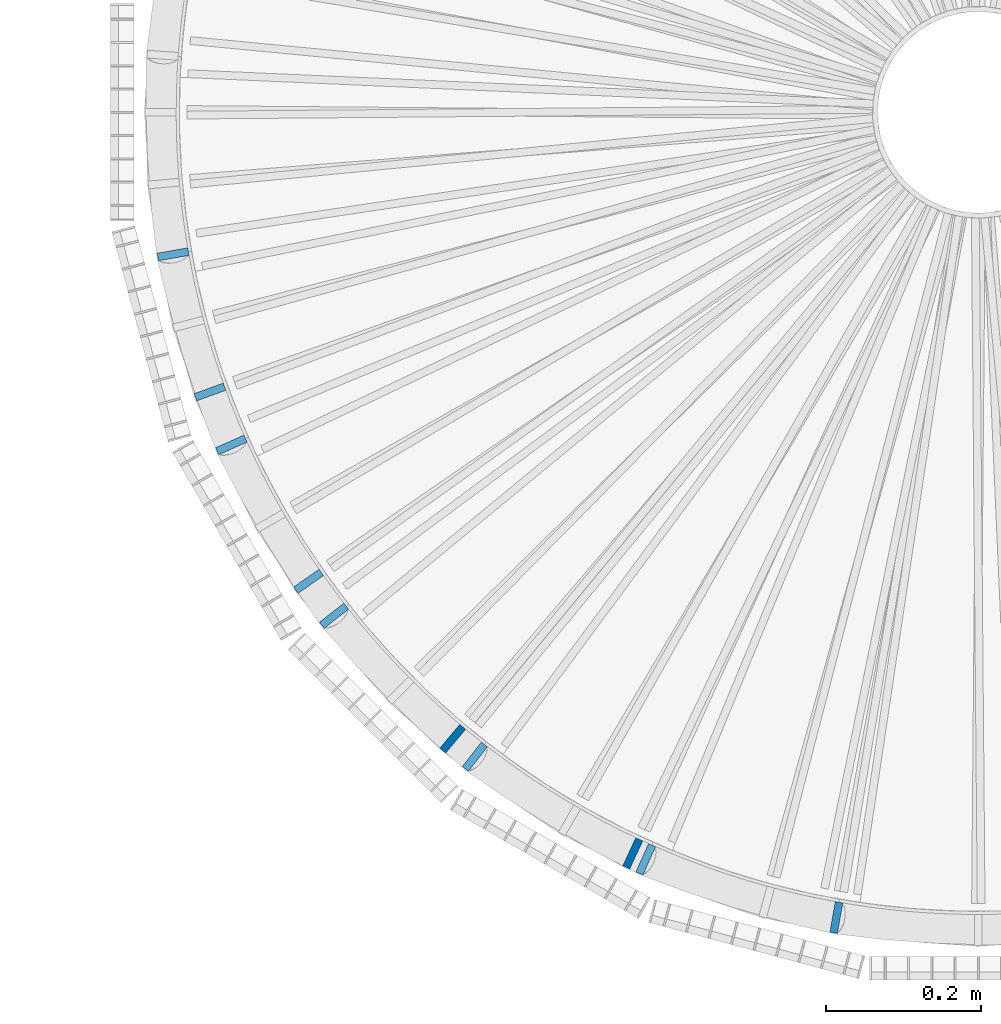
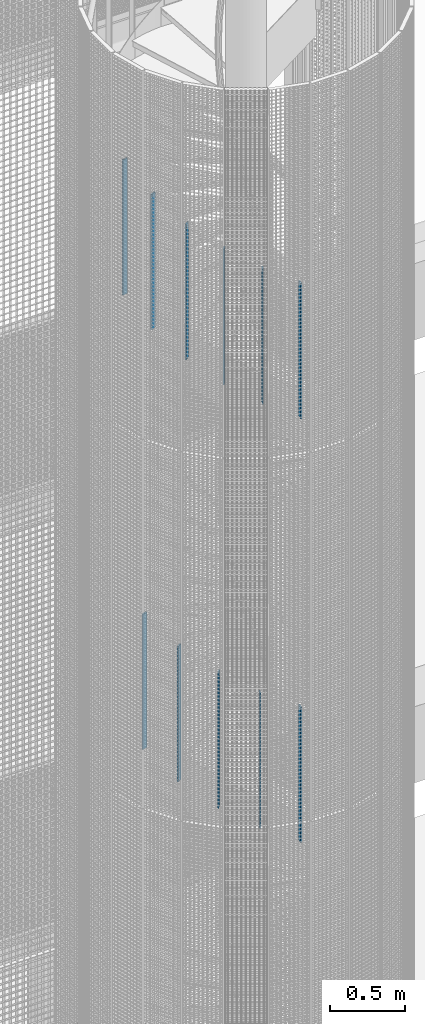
# One storey, part 38 of 1183: 11 columns, 11 elements without a shape of their own.
"""IFC2X3 building model written with IfcOpenShell, lengths in millimetres."""

from ifc_helpers import new_model, si_unit, frame, origin_with_axes, origin_2d_with_axis, place, context, subcontext, project, spatial, rectangle, extrude, material, type_object, element, aggregate, save


model = new_model("IFC2X3")

# Units and contexts
model_context = context("Model", 3, precision=1e-05, world=origin_with_axes())
body_context = subcontext(model_context, "Body", "Model", "MODEL_VIEW")
ifc_project = project(units=[si_unit("LENGTHUNIT", "METRE", prefix="MILLI"), si_unit("AREAUNIT", "SQUARE_METRE"), si_unit("VOLUMEUNIT", "CUBIC_METRE"), si_unit("MASSUNIT", "GRAM", prefix="KILO"), si_unit("TIMEUNIT", "SECOND"), si_unit("PLANEANGLEUNIT", "RADIAN"), si_unit("SOLIDANGLEUNIT", "STERADIAN"), si_unit("THERMODYNAMICTEMPERATUREUNIT", "DEGREE_CELSIUS"), si_unit("LUMINOUSINTENSITYUNIT", "LUMEN")], contexts=[model_context])

# Site, building, storey
site_placement = place(None, origin_with_axes())
site = spatial("IfcSite", under=ifc_project, at=site_placement, Name="Undefined", CompositionType="ELEMENT")
building_placement = place(site_placement, origin_with_axes())
building = spatial("IfcBuilding", under=site, at=building_placement, Name="Undefined", CompositionType="ELEMENT")
storey_placement = place(building_placement, origin_with_axes())
storey = spatial("IfcBuildingStorey", under=building, at=storey_placement, Name="Undefined", CompositionType="ELEMENT", Elevation=0.0)

# Assembly, column
assembly_1_placement = place(storey_placement, origin_with_axes())
assembly_1 = element("IfcElementAssembly", 1, at=assembly_1_placement, inside=storey, Name="MONTANT", AssemblyPlace="NOTDEFINED", PredefinedType="NOTDEFINED")
ifc_material = material(Name="STEEL/S235JR")
column_type = type_object("IfcColumnType", Name="PL10*40", PredefinedType="NOTDEFINED")
column_1_placement = place(assembly_1_placement, frame((20769.4366656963, -648.907194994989, 15724.76), z_axis=(0.0, 0.0, 1.0), x_axis=(0.788010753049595, 0.615661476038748, 0.0)))
column_1 = element("IfcColumn", 2, at=column_1_placement, type_object=column_type, material=ifc_material, Name="MONTANT", context=body_context, shape_type="SweptSolid", body=[
    extrude(rectangle(XDim=10.0, YDim=40.0, at=origin_2d_with_axis()), frame((0.0, 0.0, 1100.0), z_axis=(0.0, 0.0, -1.0), x_axis=(0.0, 1.0, 0.0)), (0.0, 0.0, 1.0), 1100.0),
])
aggregate(assembly_1, [column_1])

assembly_2_placement = place(storey_placement, origin_with_axes())
assembly_2 = element("IfcElementAssembly", 3, at=assembly_2_placement, inside=storey, Name="MONTANT", AssemblyPlace="NOTDEFINED", PredefinedType="NOTDEFINED")
column_2_placement = place(assembly_2_placement, frame((20951.0928050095, -830.563334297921, 15568.24), z_axis=(0.0, 0.0, 1.0), x_axis=(0.61566147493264, 0.788010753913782, 0.0)))
column_2 = element("IfcColumn", 4, at=column_2_placement, type_object=column_type, material=ifc_material, Name="MONTANT", context=body_context, shape_type="SweptSolid", body=[
    extrude(rectangle(XDim=10.0, YDim=40.0, at=origin_2d_with_axis()), frame((0.0, 0.0, 1100.0), z_axis=(0.0, 0.0, -1.0), x_axis=(0.0, 1.0, 0.0)), (0.0, 0.0, 1.0), 1100.0),
])
aggregate(assembly_2, [column_2])

assembly_3_placement = place(storey_placement, origin_with_axes())
assembly_3 = element("IfcElementAssembly", 5, at=assembly_3_placement, inside=storey, Name="MONTANT", AssemblyPlace="NOTDEFINED", PredefinedType="NOTDEFINED")
column_3_placement = place(assembly_3_placement, frame((20562.0126283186, -183.025179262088, 16037.8), z_axis=(0.0, 0.0, 1.0), x_axis=(0.984807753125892, 0.173648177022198, 0.0)))
column_3 = element("IfcColumn", 6, at=column_3_placement, type_object=column_type, material=ifc_material, Name="MONTANT", context=body_context, shape_type="SweptSolid", body=[
    extrude(rectangle(XDim=10.0, YDim=40.0, at=origin_2d_with_axis()), frame((0.0, 0.0, 1100.0), z_axis=(0.0, 0.0, -1.0), x_axis=(0.0, 1.0, 0.0)), (0.0, 0.0, 1.0), 1100.0),
])
aggregate(assembly_3, [column_3])

assembly_4_placement = place(storey_placement, origin_with_axes())
assembly_4 = element("IfcElementAssembly", 7, at=assembly_4_placement, inside=storey, Name="MONTANT", AssemblyPlace="NOTDEFINED", PredefinedType="NOTDEFINED")
column_4_placement = place(assembly_4_placement, frame((21416.9748207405, -1037.98737166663, 15255.2), z_axis=(0.0, 0.0, 1.0), x_axis=(0.173648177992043, 0.984807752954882, 0.0)))
column_4 = element("IfcColumn", 8, at=column_4_placement, type_object=column_type, material=ifc_material, Name="MONTANT", context=body_context, shape_type="SweptSolid", body=[
    extrude(rectangle(XDim=10.0, YDim=40.0, at=origin_2d_with_axis()), frame((0.0, 0.0, 1100.0), z_axis=(0.0, 0.0, -1.0), x_axis=(0.0, 1.0, 0.0)), (0.0, 0.0, 1.0), 1100.0),
])
aggregate(assembly_4, [column_4])

assembly_5_placement = place(storey_placement, origin_with_axes())
assembly_5 = element("IfcElementAssembly", 9, at=assembly_5_placement, inside=storey, Name="MONTANT", AssemblyPlace="NOTDEFINED", PredefinedType="NOTDEFINED")
column_5_placement = place(assembly_5_placement, frame((21171.2995782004, -962.876912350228, 15411.72), z_axis=(0.0, 0.0, 1.0), x_axis=(0.40673664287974, 0.913545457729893, 0.0)))
column_5 = element("IfcColumn", 10, at=column_5_placement, type_object=column_type, material=ifc_material, Name="MONTANT", context=body_context, shape_type="SweptSolid", body=[
    extrude(rectangle(XDim=10.0, YDim=40.0, at=origin_2d_with_axis()), frame((0.0, 0.0, 1100.0), z_axis=(0.0, 0.0, -1.0), x_axis=(0.0, 1.0, 0.0)), (0.0, 0.0, 1.0), 1100.0),
])
aggregate(assembly_5, [column_5])

assembly_6_placement = place(storey_placement, origin_with_axes())
assembly_6 = element("IfcElementAssembly", 11, at=assembly_6_placement, inside=storey, Name="MONTANT", AssemblyPlace="NOTDEFINED", PredefinedType="NOTDEFINED")
column_6_placement = place(assembly_6_placement, frame((20637.1230876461, -428.700421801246, 15881.28), z_axis=(0.0, 0.0, 1.0), x_axis=(0.913545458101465, 0.406736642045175, 0.0)))
column_6 = element("IfcColumn", 12, at=column_6_placement, type_object=column_type, material=ifc_material, Name="MONTANT", context=body_context, shape_type="SweptSolid", body=[
    extrude(rectangle(XDim=10.0, YDim=40.0, at=origin_2d_with_axis()), frame((0.0, 0.0, 1100.0), z_axis=(0.0, 0.0, -1.0), x_axis=(0.0, 1.0, 0.0)), (0.0, 0.0, 1.0), 1100.0),
])
aggregate(assembly_6, [column_6])

assembly_7_placement = place(storey_placement, origin_with_axes())
assembly_7 = element("IfcElementAssembly", 13, at=assembly_7_placement, inside=storey, Name="MONTANT", AssemblyPlace="NOTDEFINED", PredefinedType="NOTDEFINED")
column_7_placement = place(assembly_7_placement, frame((20922.5018593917, -807.410843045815, 12124.76), z_axis=(0.0, 0.0, 1.0), x_axis=(0.642787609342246, 0.766044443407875, 0.0)))
column_7 = element("IfcColumn", 14, at=column_7_placement, type_object=column_type, material=ifc_material, Name="MONTANT", context=body_context, shape_type="SweptSolid", body=[
    extrude(rectangle(XDim=10.0, YDim=40.0, at=origin_2d_with_axis()), frame((0.0, 0.0, 1100.0), z_axis=(0.0, 0.0, -1.0), x_axis=(0.0, 1.0, 0.0)), (0.0, 0.0, 1.0), 1100.0),
])
aggregate(assembly_7, [column_7])

assembly_8_placement = place(storey_placement, origin_with_axes())
assembly_8 = element("IfcElementAssembly", 15, at=assembly_8_placement, inside=storey, Name="MONTANT", AssemblyPlace="NOTDEFINED", PredefinedType="NOTDEFINED")
column_8_placement = place(assembly_8_placement, frame((21154.5603521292, -955.248407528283, 11968.24), z_axis=(0.0, 0.0, 1.0), x_axis=(0.42261826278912, 0.906307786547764, 0.0)))
column_8 = element("IfcColumn", 16, at=column_8_placement, type_object=column_type, material=ifc_material, Name="MONTANT", context=body_context, shape_type="SweptSolid", body=[
    extrude(rectangle(XDim=10.0, YDim=40.0, at=origin_2d_with_axis()), frame((0.0, 0.0, 1100.0), z_axis=(0.0, 0.0, -1.0), x_axis=(0.0, 1.0, 0.0)), (0.0, 0.0, 1.0), 1100.0),
])
aggregate(assembly_8, [column_8])

assembly_9_placement = place(storey_placement, origin_with_axes())
assembly_9 = element("IfcElementAssembly", 17, at=assembly_9_placement, inside=storey, Name="MONTANT", AssemblyPlace="NOTDEFINED", PredefinedType="NOTDEFINED")
column_9_placement = place(assembly_9_placement, frame((20609.5639776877, -360.489231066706, 12437.8), z_axis=(0.0, 0.0, 1.0), x_axis=(0.939692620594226, 0.342020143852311, 0.0)))
column_9 = element("IfcColumn", 18, at=column_9_placement, type_object=column_type, material=ifc_material, Name="MONTANT", context=body_context, shape_type="SweptSolid", body=[
    extrude(rectangle(XDim=10.0, YDim=40.0, at=origin_2d_with_axis()), frame((0.0, 0.0, 1100.0), z_axis=(0.0, 0.0, -1.0), x_axis=(0.0, 1.0, 0.0)), (0.0, 0.0, 1.0), 1100.0),
])
aggregate(assembly_9, [column_9])

assembly_10_placement = place(storey_placement, origin_with_axes())
assembly_10 = element("IfcElementAssembly", 19, at=assembly_10_placement, inside=storey, Name="MONTANT", AssemblyPlace="NOTDEFINED", PredefinedType="NOTDEFINED")
column_10_placement = place(assembly_10_placement, frame((21416.9748207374, -1037.98737168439, 11811.72), z_axis=(0.0, 0.0, 1.0), x_axis=(0.173648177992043, 0.984807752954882, 0.0)))
column_10 = element("IfcColumn", 20, at=column_10_placement, type_object=column_type, material=ifc_material, Name="MONTANT", context=body_context, shape_type="SweptSolid", body=[
    extrude(rectangle(XDim=10.0, YDim=40.0, at=origin_2d_with_axis()), frame((0.0, 0.0, 1100.0), z_axis=(0.0, 0.0, -1.0), x_axis=(0.0, 1.0, 0.0)), (0.0, 0.0, 1.0), 1100.0),
])
aggregate(assembly_10, [column_10])

assembly_11_placement = place(storey_placement, origin_with_axes())
assembly_11 = element("IfcElementAssembly", 21, at=assembly_11_placement, inside=storey, Name="MONTANT", AssemblyPlace="NOTDEFINED", PredefinedType="NOTDEFINED")
column_11_placement = place(assembly_11_placement, frame((20736.6137453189, -604.549563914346, 12281.28), z_axis=(0.0, 0.0, 1.0), x_axis=(0.819152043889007, 0.573576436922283, 0.0)))
column_11 = element("IfcColumn", 22, at=column_11_placement, type_object=column_type, material=ifc_material, Name="MONTANT", context=body_context, shape_type="SweptSolid", body=[
    extrude(rectangle(XDim=10.0, YDim=40.0, at=origin_2d_with_axis()), frame((0.0, 0.0, 1100.0), z_axis=(0.0, 0.0, -1.0), x_axis=(0.0, 1.0, 0.0)), (0.0, 0.0, 1.0), 1100.0),
])
aggregate(assembly_11, [column_11])

save(model, "model.ifc")
